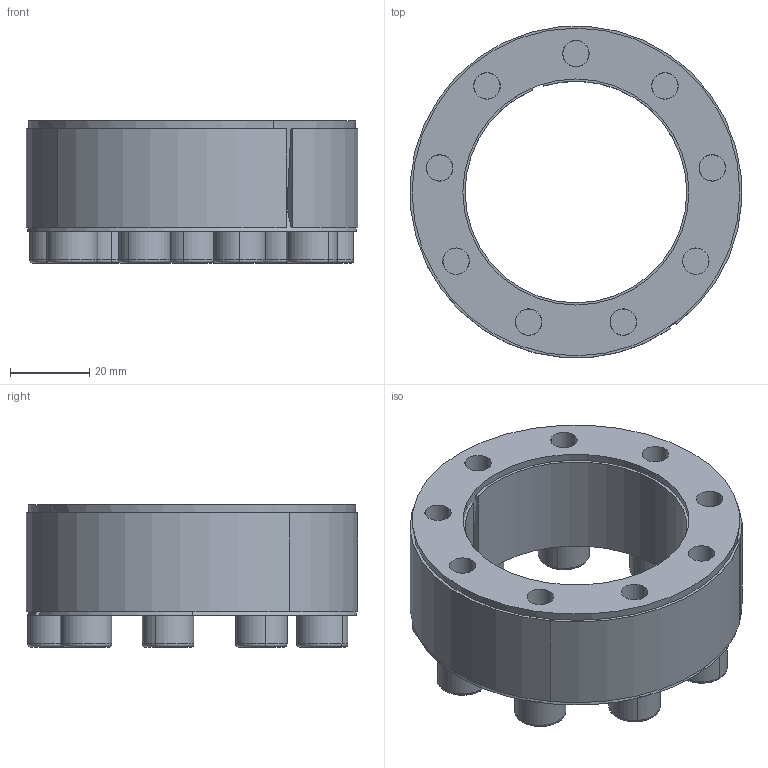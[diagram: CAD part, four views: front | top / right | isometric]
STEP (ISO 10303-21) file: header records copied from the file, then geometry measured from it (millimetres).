
FILE_DESCRIPTION (( 'STEP AP214' ), '1' );
FILE_NAME ('CONEX-L-56x84.step', '2013-04-06T13:23:05', ( 'Pc' ), ( '' ), 'SwSTEP 2.0', 'SolidWorks 2013', '' );
FILE_SCHEMA (( 'AUTOMOTIVE_DESIGN' ));
Length unit declared in the file: millimetre
Products named in the file (1): CONEX-L-56x84
Bounding box: 83.79 x 83.72 x 35.97 mm (x, y, z)
Volume: 83211.7 mm3; surface area: 54885.4 mm2
Topology: 12 solids, 12 shells, 318 faces, 727 edges, 433 vertices
Faces by surface type: plane 146, cylinder 84, cone 52, torus 36
Entity records: 12538 total; most frequent: DIRECTION 1680, CARTESIAN_POINT 1494, ORIENTED_EDGE 1418, EDGE_CURVE 709, AXIS2_PLACEMENT_3D 660, VERTEX_POINT 433, EDGE_LOOP 380, LINE 360
